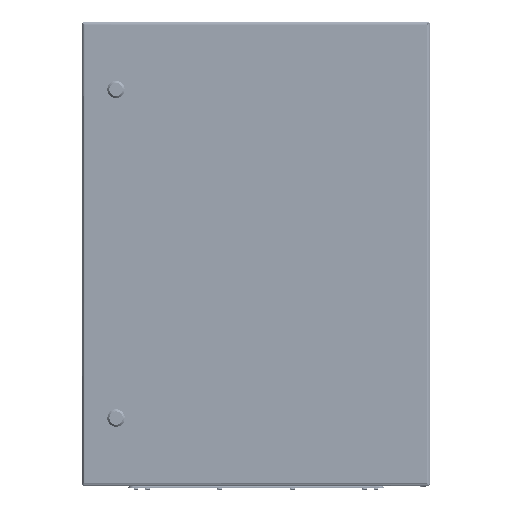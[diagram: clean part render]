
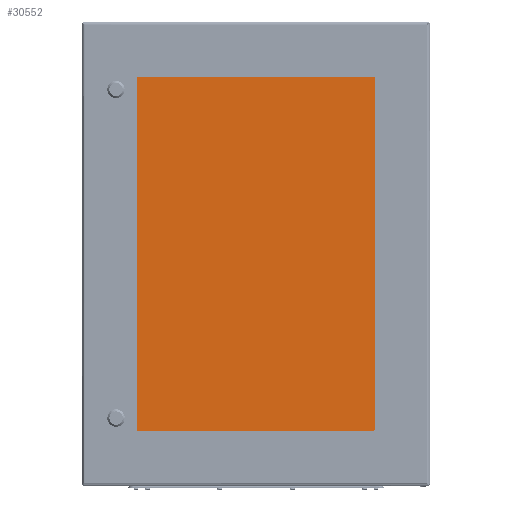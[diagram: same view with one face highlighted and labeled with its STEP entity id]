
A CAD part, top view. The second image highlights one B-rep face of the part: STEP entity #30552.
In plain terms, the highlighted planar face has unit normal (0, 0, 1).
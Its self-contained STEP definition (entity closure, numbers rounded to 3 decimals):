
#243 = VERTEX_POINT ( 'NONE', #13289 ) ;
#933 = CIRCLE ( 'NONE', #24877, 1. ) ;
#1094 = DIRECTION ( 'NONE',  ( 1., 0., 0. ) ) ;
#1570 = VERTEX_POINT ( 'NONE', #38783 ) ;
#3867 = DIRECTION ( 'NONE',  ( 1., 0., 0. ) ) ;
#5290 = DIRECTION ( 'NONE',  ( 0., 0., 1. ) ) ;
#6290 = DIRECTION ( 'NONE',  ( 0., 1., 0. ) ) ;
#7608 = DIRECTION ( 'NONE',  ( -1., 0., 0. ) ) ;
#8033 = CARTESIAN_POINT ( 'NONE',  ( 214., -314., 2. ) ) ;
#8111 = VECTOR ( 'NONE', #49671, 1000. ) ;
#8801 = EDGE_CURVE ( 'NONE', #9215, #39285, #44067, .T. ) ;
#9215 = VERTEX_POINT ( 'NONE', #41138 ) ;
#10464 = CARTESIAN_POINT ( 'NONE',  ( -214., 315., 2. ) ) ;
#11164 = ORIENTED_EDGE ( 'NONE', *, *, #22700, .T. ) ;
#11266 = CARTESIAN_POINT ( 'NONE',  ( 0., 0., 2. ) ) ;
#12081 = DIRECTION ( 'NONE',  ( 0., 0., 1. ) ) ;
#13180 = VERTEX_POINT ( 'NONE', #33962 ) ;
#13289 = CARTESIAN_POINT ( 'NONE',  ( 215., 314., 2. ) ) ;
#16255 = DIRECTION ( 'NONE',  ( 1., 0., 0. ) ) ;
#16519 = DIRECTION ( 'NONE',  ( 0., 0., 1. ) ) ;
#18631 = CIRCLE ( 'NONE', #35432, 1. ) ;
#18999 = LINE ( 'NONE', #31458, #23023 ) ;
#19632 = EDGE_CURVE ( 'NONE', #36832, #13180, #933, .T. ) ;
#19970 = CARTESIAN_POINT ( 'NONE',  ( 214., 314., 2. ) ) ;
#20027 = ORIENTED_EDGE ( 'NONE', *, *, #44435, .T. ) ;
#20263 = VERTEX_POINT ( 'NONE', #48809 ) ;
#20872 = CARTESIAN_POINT ( 'NONE',  ( -215., -315., 2. ) ) ;
#21051 = DIRECTION ( 'NONE',  ( 0., 0., 1. ) ) ;
#22700 = EDGE_CURVE ( 'NONE', #1570, #9215, #41904, .T. ) ;
#23023 = VECTOR ( 'NONE', #6290, 1000. ) ;
#23753 = ORIENTED_EDGE ( 'NONE', *, *, #19632, .T. ) ;
#24877 = AXIS2_PLACEMENT_3D ( 'NONE', #8033, #41800, #3867 ) ;
#24956 = DIRECTION ( 'NONE',  ( 1., 0., 0. ) ) ;
#25179 = EDGE_CURVE ( 'NONE', #20263, #35798, #49672, .T. ) ;
#26409 = ORIENTED_EDGE ( 'NONE', *, *, #8801, .T. ) ;
#26422 = EDGE_LOOP ( 'NONE', ( #11164, #26409, #46297, #23753, #20027, #47719, #41908, #27683 ) ) ;
#26543 = CARTESIAN_POINT ( 'NONE',  ( 215., -315., 2. ) ) ;
#26828 = DIRECTION ( 'NONE',  ( 1., 0., 0. ) ) ;
#27683 = ORIENTED_EDGE ( 'NONE', *, *, #39435, .T. ) ;
#28628 = AXIS2_PLACEMENT_3D ( 'NONE', #11266, #12081, #37802 ) ;
#30552 = ADVANCED_FACE ( 'NONE', ( #54426 ), #53604, .T. ) ;
#31458 = CARTESIAN_POINT ( 'NONE',  ( 215., -315., 2. ) ) ;
#33962 = CARTESIAN_POINT ( 'NONE',  ( 215., -314., 2. ) ) ;
#34829 = LINE ( 'NONE', #26543, #38079 ) ;
#35432 = AXIS2_PLACEMENT_3D ( 'NONE', #54718, #16519, #16255 ) ;
#35717 = CARTESIAN_POINT ( 'NONE',  ( -214., -314., 2. ) ) ;
#35798 = VERTEX_POINT ( 'NONE', #10464 ) ;
#36832 = VERTEX_POINT ( 'NONE', #48365 ) ;
#36993 = AXIS2_PLACEMENT_3D ( 'NONE', #35717, #5290, #1094 ) ;
#37802 = DIRECTION ( 'NONE',  ( 1., 0., 0. ) ) ;
#38079 = VECTOR ( 'NONE', #26828, 1000. ) ;
#38403 = VECTOR ( 'NONE', #7608, 1000. ) ;
#38783 = CARTESIAN_POINT ( 'NONE',  ( -215., 314., 2. ) ) ;
#39185 = EDGE_CURVE ( 'NONE', #39285, #36832, #34829, .T. ) ;
#39285 = VERTEX_POINT ( 'NONE', #52812 ) ;
#39435 = EDGE_CURVE ( 'NONE', #35798, #1570, #18631, .T. ) ;
#41138 = CARTESIAN_POINT ( 'NONE',  ( -215., -314., 2. ) ) ;
#41800 = DIRECTION ( 'NONE',  ( 0., 0., 1. ) ) ;
#41904 = LINE ( 'NONE', #20872, #8111 ) ;
#41908 = ORIENTED_EDGE ( 'NONE', *, *, #25179, .T. ) ;
#44067 = CIRCLE ( 'NONE', #36993, 1. ) ;
#44435 = EDGE_CURVE ( 'NONE', #13180, #243, #18999, .T. ) ;
#45513 = EDGE_CURVE ( 'NONE', #243, #20263, #51337, .T. ) ;
#45762 = CARTESIAN_POINT ( 'NONE',  ( 215., 315., 2. ) ) ;
#46297 = ORIENTED_EDGE ( 'NONE', *, *, #39185, .T. ) ;
#47719 = ORIENTED_EDGE ( 'NONE', *, *, #45513, .T. ) ;
#48365 = CARTESIAN_POINT ( 'NONE',  ( 214., -315., 2. ) ) ;
#48809 = CARTESIAN_POINT ( 'NONE',  ( 214., 315., 2. ) ) ;
#49671 = DIRECTION ( 'NONE',  ( 0., -1., 0. ) ) ;
#49672 = LINE ( 'NONE', #45762, #38403 ) ;
#51337 = CIRCLE ( 'NONE', #53115, 1. ) ;
#52812 = CARTESIAN_POINT ( 'NONE',  ( -214., -315., 2. ) ) ;
#53115 = AXIS2_PLACEMENT_3D ( 'NONE', #19970, #21051, #24956 ) ;
#53604 = PLANE ( 'NONE',  #28628 ) ;
#54426 = FACE_OUTER_BOUND ( 'NONE', #26422, .T. ) ;
#54718 = CARTESIAN_POINT ( 'NONE',  ( -214., 314., 2. ) ) ;
